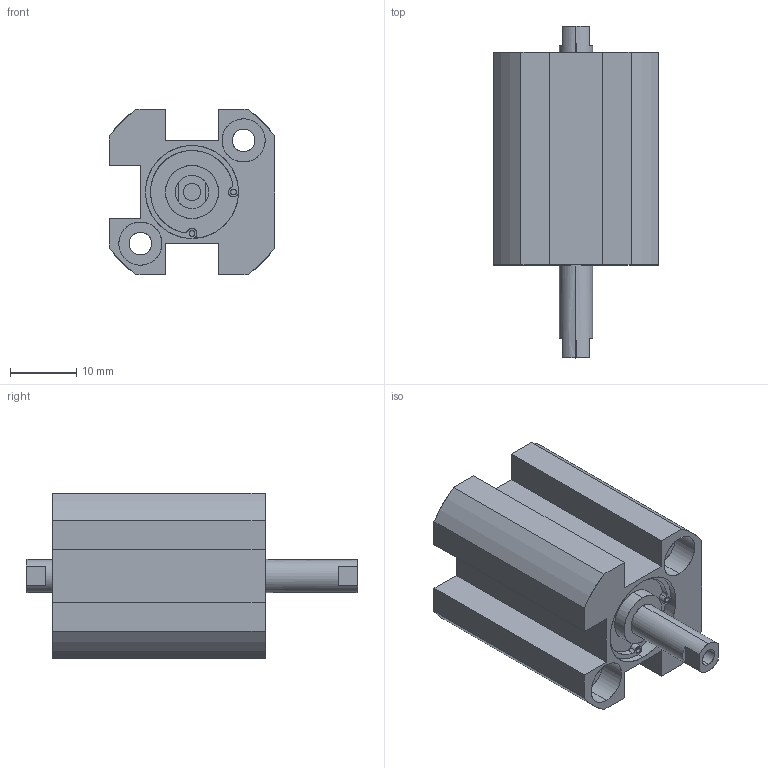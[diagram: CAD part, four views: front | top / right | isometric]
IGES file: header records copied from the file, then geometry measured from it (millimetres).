
Start section: SolidWorks IGES file using analytic representation for surfaces
Global section: file name: C:\Users\Toshiba\Desktop\XC#7-10-10.IGS; native system: SolidWorks 2014; preprocessor: SolidWorks 2014; author: Toshiba; date: 160523.161832; units: millimetre
Bounding box: 25 x 50 x 25 mm (x, y, z)
Surface area: 6542.8 mm2 (no closed solid volume)
Topology: 0 solids, 0 shells, 106 faces, 1768 edges, 1764 vertices
Faces by surface type: revolution 62, bspline 44
